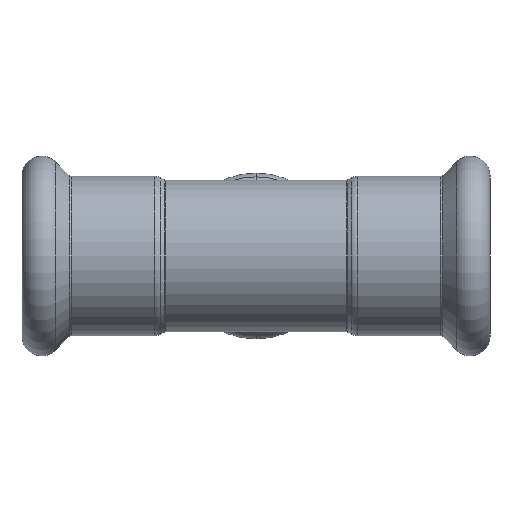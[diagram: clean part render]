
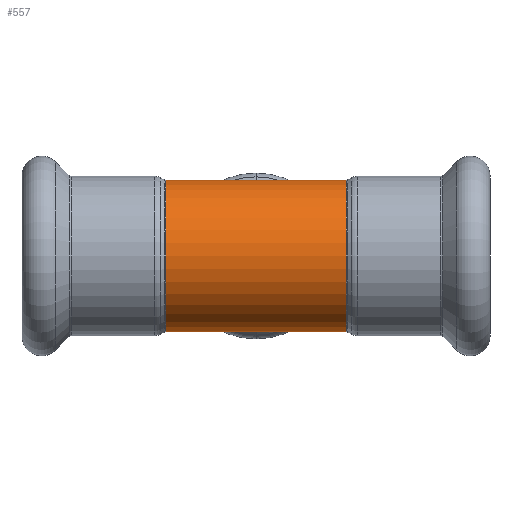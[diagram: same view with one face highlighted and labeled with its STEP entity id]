
A CAD part, front view. The second image highlights one B-rep face of the part: STEP entity #557.
In plain terms, the highlighted cylindrical face has radius 12 mm (diameter 24 mm), a partial arc.
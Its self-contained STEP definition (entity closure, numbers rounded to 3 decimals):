
#9 = FACE_OUTER_BOUND ( 'NONE', #1888, .T. ) ;
#181 = CARTESIAN_POINT ( 'NONE',  ( -14.248, 0., 0. ) ) ;
#182 = VERTEX_POINT ( 'NONE', #4154 ) ;
#240 = ORIENTED_EDGE ( 'NONE', *, *, #1417, .T. ) ;
#287 = DIRECTION ( 'NONE',  ( -1., 0., 0. ) ) ;
#346 = CIRCLE ( 'NONE', #1568, 12. ) ;
#387 = VERTEX_POINT ( 'NONE', #3928 ) ;
#415 = EDGE_CURVE ( 'NONE', #387, #182, #3804, .T. ) ;
#474 = CARTESIAN_POINT ( 'NONE',  ( 27.146, 0., 12. ) ) ;
#557 = ADVANCED_FACE ( 'NONE', ( #9 ), #2534, .T. ) ;
#594 = ORIENTED_EDGE ( 'NONE', *, *, #415, .F. ) ;
#637 = DIRECTION ( 'NONE',  ( -1., 0., 0. ) ) ;
#944 = CARTESIAN_POINT ( 'NONE',  ( 14.248, 0., 0. ) ) ;
#1198 = CARTESIAN_POINT ( 'NONE',  ( 27.146, 0., 0. ) ) ;
#1225 = VECTOR ( 'NONE', #287, 1000. ) ;
#1242 = AXIS2_PLACEMENT_3D ( 'NONE', #1198, #2532, #3492 ) ;
#1417 = EDGE_CURVE ( 'NONE', #2693, #3751, #3410, .T. ) ;
#1568 = AXIS2_PLACEMENT_3D ( 'NONE', #181, #2133, #2823 ) ;
#1726 = CIRCLE ( 'NONE', #3297, 12. ) ;
#1777 = DIRECTION ( 'NONE',  ( -1., 0., 0. ) ) ;
#1888 = EDGE_LOOP ( 'NONE', ( #594, #4179, #240, #2777 ) ) ;
#2133 = DIRECTION ( 'NONE',  ( -1., 0., 0. ) ) ;
#2424 = VECTOR ( 'NONE', #1777, 1000. ) ;
#2532 = DIRECTION ( 'NONE',  ( -1., 0., 0. ) ) ;
#2534 = CYLINDRICAL_SURFACE ( 'NONE', #1242, 12. ) ;
#2693 = VERTEX_POINT ( 'NONE', #2829 ) ;
#2777 = ORIENTED_EDGE ( 'NONE', *, *, #4019, .F. ) ;
#2789 = EDGE_CURVE ( 'NONE', #387, #2693, #1726, .T. ) ;
#2823 = DIRECTION ( 'NONE',  ( 0., 0., 1. ) ) ;
#2829 = CARTESIAN_POINT ( 'NONE',  ( 14.248, 0., 12. ) ) ;
#2933 = CARTESIAN_POINT ( 'NONE',  ( 27.146, 0., -12. ) ) ;
#3297 = AXIS2_PLACEMENT_3D ( 'NONE', #944, #637, #4317 ) ;
#3410 = LINE ( 'NONE', #474, #2424 ) ;
#3492 = DIRECTION ( 'NONE',  ( 0., 0., 1. ) ) ;
#3577 = CARTESIAN_POINT ( 'NONE',  ( -14.248, 0., 12. ) ) ;
#3751 = VERTEX_POINT ( 'NONE', #3577 ) ;
#3804 = LINE ( 'NONE', #2933, #1225 ) ;
#3928 = CARTESIAN_POINT ( 'NONE',  ( 14.248, 0., -12. ) ) ;
#4019 = EDGE_CURVE ( 'NONE', #182, #3751, #346, .T. ) ;
#4154 = CARTESIAN_POINT ( 'NONE',  ( -14.248, 0., -12. ) ) ;
#4179 = ORIENTED_EDGE ( 'NONE', *, *, #2789, .T. ) ;
#4317 = DIRECTION ( 'NONE',  ( 0., 0., 1. ) ) ;
